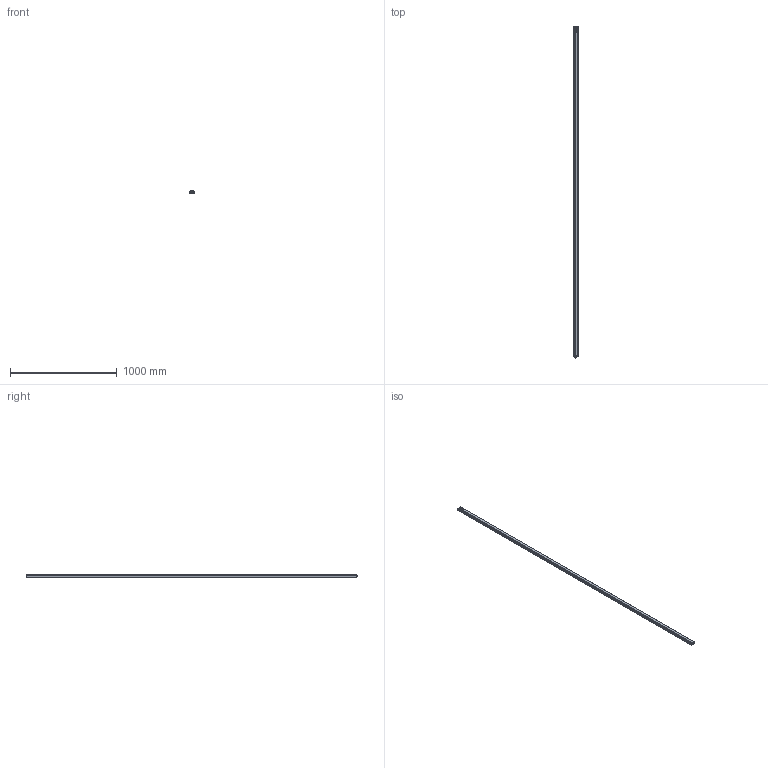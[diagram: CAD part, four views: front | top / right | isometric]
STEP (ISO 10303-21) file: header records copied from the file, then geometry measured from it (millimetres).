
FILE_DESCRIPTION(/* description */ (''),/* implementation_level */ '2;1');
FILE_NAME(/* name */ 'C:\Users\andre\SynologyDrive\Optoscan\Libreria Componenti\00 - Barriere\Polaris sorgente\Polaris_3100_TX.stp',/* time_stamp */ '2021-06-04T11:33:57+02:00',/* author */ ('andre'),/* organization */ (''),/* preprocessor_version */ 'ST-DEVELOPER v18',/* originating_system */ 'Autodesk Inventor 2020',/* authorisation */ '');
FILE_SCHEMA (('AUTOMOTIVE_DESIGN { 1 0 10303 214 3 1 1 }'));
Length unit declared in the file: millimetre
Products named in the file (1): Polaris_3100_TX
Bounding box: 40.5 x 3104.8 x 20.75 mm (x, y, z)
Volume: 608011 mm3; surface area: 806586.8 mm2
Topology: 1 solids, 1 shells, 722 faces, 2004 edges, 1288 vertices
Faces by surface type: plane 327, cylinder 203, bspline 115, torus 63, cone 8, sphere 6
Full cylindrical faces by diameter (mm): 1 x8, 2.5 x4, 3 x4, 3.5 x4, 5.5 x4, 8 x1, 10.5 x2, 11.75 x9, 12 x1, 12.3 x2, 14.5 x1, 16.7 x1, 17.5 x1
Entity records: 29853 total; most frequent: CARTESIAN_POINT 11151, ORIENTED_EDGE 3994, DIRECTION 3433, EDGE_CURVE 1997, VERTEX_POINT 1289, AXIS2_PLACEMENT_3D 1187, LINE 1059, VECTOR 1059
